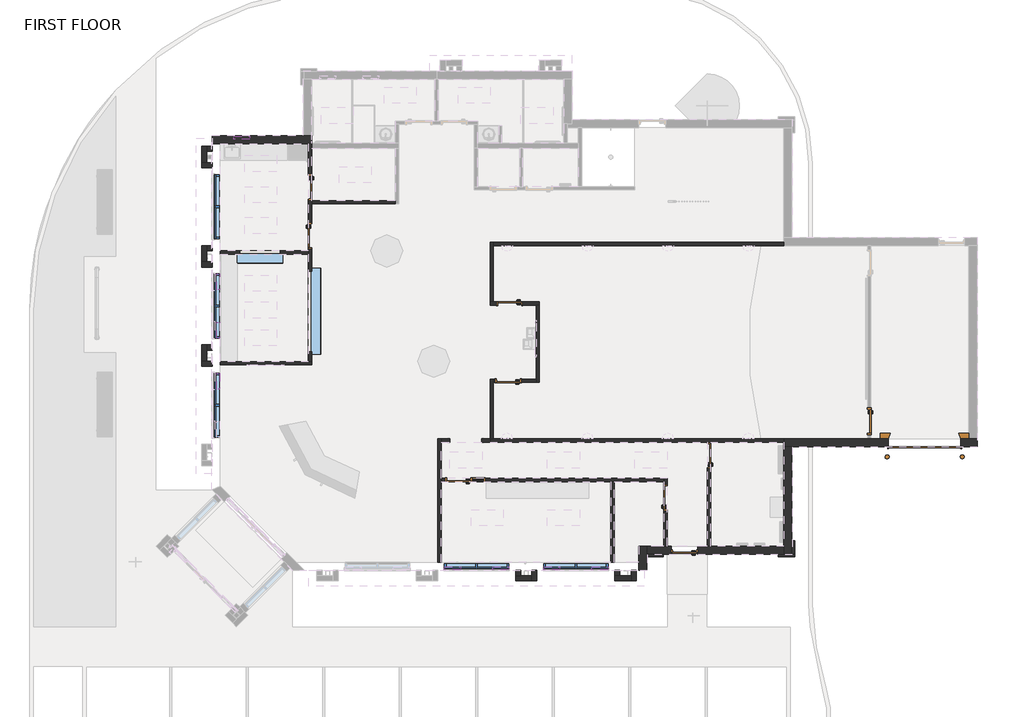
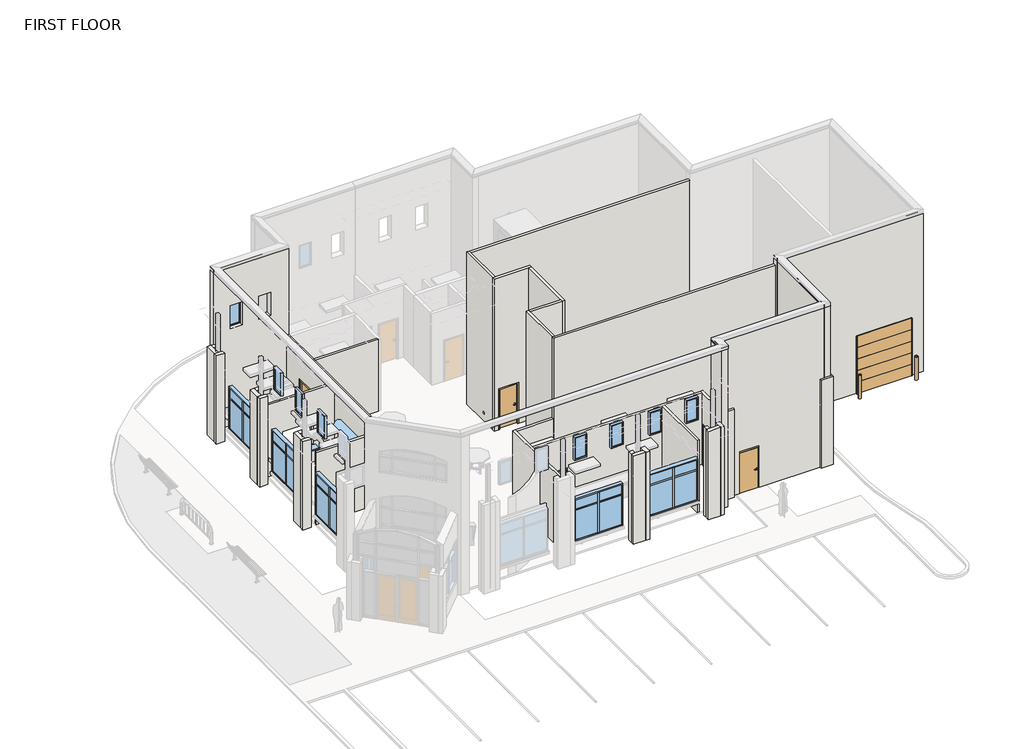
# One storey, part 3 of 7: 40 walls, 15 windows, 10 doors.
"""IFC4 building model written with IfcOpenShell, lengths in millimetres."""

from ifc_helpers import new_model, si_unit, frame, origin, place, context, project, spatial, polyline, outline, extrude, faceted_brep, transform, mapped, element, save
from components import hm_frame_door_interior_single_4ead148d, hm_frame_door_interior_single_41877bdb, hm_frame_door_interior_single_with_sidelite_831faa12, door_ae087dad, sectional_overhead_dock_door_and_seal_3876_cbcbc84f, aluminum_exterior_window_single_3885_e2dbf674, pass_through_counter_4719_pass_through_counter_4719_2_ca190591, pass_through_counter_4719_pass_through_counter_short_b2f492ed, storefront_window_28fc684a

model = new_model("IFC4")

# Units and contexts
model_context = context("Model", 3, world=origin())
ifc_project = project(units=[si_unit("LENGTHUNIT", "METRE", prefix="MILLI")], contexts=[model_context])

# Site, building, storey
site = spatial("IfcSite", under=ifc_project)
building = spatial("IfcBuilding", under=site)
storey = spatial("IfcBuildingStorey", under=building, Name="FIRST FLOOR", Elevation=30480.0)

# Doors
placement = place(None, origin())
hm_frame_door_interior_single_shape = hm_frame_door_interior_single_4ead148d(model_context)
element("IfcDoor", 1, ObjectType="HM Frame Door - Interior Single : 36\" x 84\" x 5.75\" WD Door", at=placement, inside=storey, context=model_context, shape_type="MappedRepresentation", body=[
    mapped(hm_frame_door_interior_single_shape, transform((-13127.147753, 6404.1010405, 30480.0), x_axis=(0.0, -1.0, 0.0), y_axis=(1.0, 0.0, 0.0), z_axis=(0.0, 0.0, 1.0))),
])
element("IfcDoor", 2, ObjectType="HM Frame Door - Interior Single : 36\" x 84\" x 5.75\" WD Door", at=placement, inside=storey, context=model_context, shape_type="MappedRepresentation", body=[
    mapped(hm_frame_door_interior_single_shape, transform((-5569.060253, 3840.2885405, 30480.0), x_axis=(-1.0, 0.0, 0.0), y_axis=(0.0, -1.0, 0.0), z_axis=(0.0, 0.0, 1.0))),
])
element("IfcDoor", 3, ObjectType="HM Frame Door - Interior Single : 36\" x 84\" x 5.75\" WD Door", at=placement, inside=storey, context=model_context, shape_type="MappedRepresentation", body=[
    mapped(hm_frame_door_interior_single_shape, transform((1982.677247, -1911.2239595, 30480.0), x_axis=(0.0, 1.0, 0.0), y_axis=(-1.0, 0.0, 0.0), z_axis=(0.0, 0.0, 1.0))),
])
hm_frame_door_interior_single_2_shape = hm_frame_door_interior_single_41877bdb(model_context)
element("IfcDoor", 4, ObjectType="HM Frame Door - Interior Single : 36\" x 84\" x 5.75\" WD Door", at=placement, inside=storey, context=model_context, shape_type="MappedRepresentation", body=[
    mapped(hm_frame_door_interior_single_2_shape, transform((334.852247, -3508.2489595, 30480.0), x_axis=(0.0, 1.0, 0.0), y_axis=(-1.0, 0.0, 0.0), z_axis=(0.0, 0.0, 1.0))),
])
element("IfcDoor", 5, ObjectType="HM Frame Door - Interior Single : 36\" x 84\" x 5.75\" WD Door", at=placement, inside=storey, context=model_context, shape_type="MappedRepresentation", body=[
    mapped(hm_frame_door_interior_single_2_shape, transform((-5619.860253, 916.1135405, 30480.0), x_axis=(-1.0, 0.0, 0.0), y_axis=(0.0, -1.0, 0.0), z_axis=(0.0, 0.0, 1.0))),
])
element("IfcDoor", 6, ObjectType="HM Frame Door - Interior Single : 36\" x 84\" x 5.75\" WD Door", at=placement, inside=storey, context=model_context, shape_type="MappedRepresentation", body=[
    mapped(hm_frame_door_interior_single_2_shape, transform((-13127.147753, 8248.7760405, 30480.0), x_axis=(0.0, -1.0, 0.0), y_axis=(1.0, 0.0, 0.0), z_axis=(0.0, 0.0, 1.0))),
])
element("IfcDoor", 7, ObjectType="HM Frame Door - Interior Single : 36\" x 84\" x 5.75\" WD Door", at=placement, inside=storey, context=model_context, shape_type="MappedRepresentation", body=[
    mapped(hm_frame_door_interior_single_2_shape, transform((8049.7427189, -618.9989595, 30480.0), x_axis=(0.0, -1.0, 0.0), y_axis=(1.0, 0.0, 0.0), z_axis=(0.0, 0.0, 1.0))),
])
hm_frame_door_interior_single_with_sidelite_shape = hm_frame_door_interior_single_with_sidelite_831faa12(model_context)
element("IfcDoor", 8, ObjectType="HM Frame Door - Interior Single with Sidelite : 36\" x 84\" x 5.75\" x 18\" Lite_Wood", at=placement, inside=storey, context=model_context, shape_type="MappedRepresentation", body=[
    mapped(hm_frame_door_interior_single_with_sidelite_shape, transform((-7499.460253, -2836.7364595, 30480.0), x_axis=(-1.0, 0.0, 0.0), y_axis=(0.0, -1.0, 0.0), z_axis=(0.0, 0.0, 1.0))),
])
door_shape = door_ae087dad(model_context)
element("IfcDoor", 9, ObjectType="HM_Frame_Door_-_Exterior_Single_3894 : 3'-0\" x 7'-0\" Metal_5.75\" x 4\"", at=placement, inside=storey, context=model_context, shape_type="MappedRepresentation", body=[
    mapped(door_shape, transform((1057.164747, -5495.7989595, 30480.0), x_axis=(1.0, 0.0, 0.0), y_axis=(0.0, 1.0, 0.0), z_axis=(0.0, 0.0, 1.0))),
])
sectional_overhead_dock_door_and_seal_3876_shape = sectional_overhead_dock_door_and_seal_3876_cbcbc84f(model_context)
element("IfcDoor", 10, ObjectType="Sectional_Overhead_Dock_Door_and_Seal_3876 : 9'-0\"W x 10'-0\"H", at=placement, inside=storey, context=model_context, shape_type="MappedRepresentation", body=[
    mapped(sectional_overhead_dock_door_and_seal_3876_shape, transform((10150.364747, -1431.7989595, 30480.0), x_axis=(1.0, 0.0, 0.0), y_axis=(0.0, 1.0, 0.0), z_axis=(0.0, 0.0, 1.0))),
])

# Walls
element("IfcWall", 11, ObjectType="Exterior - Brick on Mtl. Stud", at=placement, inside=storey, context=model_context, shape_type="Brep", body=[
    faceted_brep([(-16824.435253, 9896.6010405, 30480.0), (-16519.635253, 9896.6010405, 30480.0), (-13189.060253, 9896.6010405, 30480.0), (-13065.235253, 9896.6010405, 30480.0), (-13065.235253, 9896.6010405, 34290.0), (-13065.235253, 9896.6010405, 34594.8), (-13065.235253, 9896.6010405, 38557.2), (-13065.235253, 9896.6010405, 38890.816921), (-16519.635253, 9896.6010405, 38890.816921), (-16522.810253, 9896.6010405, 38899.5401618), (-16522.810253, 9896.6010405, 39014.4), (-16824.435253, 9896.6010405, 39014.4), (-13979.635253, 9896.6010405, 36830.0), (-13979.635253, 9896.6010405, 35610.8), (-14589.235253, 9896.6010405, 35610.8), (-14589.235253, 9896.6010405, 36830.0), (-15402.035253, 9896.6010405, 36830.0), (-15402.035253, 9896.6010405, 35610.8), (-16011.635253, 9896.6010405, 35610.8), (-16011.635253, 9896.6010405, 36830.0), (-13065.235253, 10201.4010405, 30480.0), (-13370.035253, 10201.4010405, 30480.0), (-16824.435253, 10201.4010405, 30480.0), (-16824.435253, 10201.4010405, 39014.4), (-13370.035253, 10201.4010405, 39014.4), (-13068.410253, 10201.4010405, 39014.4), (-13068.410253, 10201.4010405, 38899.5401618), (-13065.235253, 10201.4010405, 38890.816921), (-13979.635253, 10201.4010405, 35610.8), (-13979.635253, 10201.4010405, 36830.0), (-14589.235253, 10201.4010405, 36830.0), (-14589.235253, 10201.4010405, 35610.8), (-15402.035253, 10201.4010405, 35610.8), (-15402.035253, 10201.4010405, 36830.0), (-16011.635253, 10201.4010405, 36830.0), (-16011.635253, 10201.4010405, 35610.8), (-13065.235253, 9912.4760405, 30480.0), (-16522.810253, 9899.7760405, 39014.4), (-13068.410253, 9899.7760405, 39014.4), (-16522.810253, 9899.7760405, 38899.5401618), (-13068.410253, 9899.7760405, 38899.5401618)], [[[0, 1, 2, 3, 4, 5, 6, 7, 8, 9, 10, 11], [12, 13, 14, 15], [16, 17, 18, 19]], [[20, 21, 22, 23, 24, 25, 26, 27], [28, 29, 30, 31], [32, 33, 34, 35]], [[3, 2, 1, 0, 22, 21, 20, 36]], [[23, 11, 10, 37, 38, 25, 24]], [[0, 11, 23, 22]], [[3, 36, 20, 27, 7, 6, 5, 4]], [[13, 12, 29, 28]], [[14, 13, 28, 31]], [[15, 14, 31, 30]], [[12, 15, 30, 29]], [[17, 16, 33, 32]], [[18, 17, 32, 35]], [[19, 18, 35, 34]], [[16, 19, 34, 33]], [[39, 37, 10, 9]], [[8, 39, 9]], [[39, 40, 38, 37]], [[40, 39, 8, 7]], [[38, 40, 26, 25]], [[40, 7, 27, 26]]]),
])
element("IfcWall", 12, ObjectType="Exterior - Brick on Mtl. Stud", at=placement, inside=storey, context=model_context, shape_type="Brep", body=[
    faceted_brep([(12131.564747, -1279.3989595, 39014.4), (12131.564747, -1279.3989595, 30480.0), (11826.764747, -1279.3989595, 30480.0), (11521.964747, -1279.3989595, 30480.0), (11521.964747, -1279.3989595, 33528.0), (8778.764747, -1279.3989595, 33528.0), (8778.764747, -1279.3989595, 30480.0), (8111.6552189, -1279.3989595, 30480.0), (7987.8302189, -1279.3989595, 30480.0), (4816.364747, -1279.3989595, 30480.0), (4816.364747, -1279.3989595, 38557.2), (4816.364747, -1279.3989595, 38890.816921), (11826.764747, -1279.3989595, 38890.816921), (11829.939747, -1279.3989595, 38899.5401618), (11829.939747, -1279.3989595, 39014.4), (12131.564747, -1584.1989595, 30480.0), (12131.564747, -1584.1989595, 39014.4), (5121.164747, -1584.1989595, 39014.4), (4819.539747, -1584.1989595, 39014.4), (4819.539747, -1584.1989595, 38899.5401618), (4816.364747, -1584.1989595, 38890.816921), (4816.364747, -1584.1989595, 30480.0), (5121.164747, -1584.1989595, 30480.0), (8778.764747, -1584.1989595, 30480.0), (8778.764747, -1584.1989595, 33528.0), (11521.964747, -1584.1989595, 33528.0), (11521.964747, -1584.1989595, 30480.0), (4816.364747, -1403.2239595, 30480.0), (11829.939747, -1282.5739595, 39014.4), (4819.539747, -1282.5739595, 39014.4), (11829.939747, -1282.5739595, 38899.5401618), (4819.539747, -1282.5739595, 38899.5401618)], [[[0, 1, 2, 3, 4, 5, 6, 7, 8, 9, 10, 11, 12, 13, 14]], [[15, 16, 17, 18, 19, 20, 21, 22, 23, 24, 25, 26]], [[1, 15, 26, 3, 2]], [[21, 27, 9, 8, 7, 6, 23, 22]], [[16, 0, 14, 28, 29, 18, 17]], [[1, 0, 16, 15]], [[9, 27, 21, 20, 11, 10]], [[25, 4, 3, 26]], [[4, 25, 24, 5]], [[5, 24, 23, 6]], [[30, 28, 14, 13]], [[12, 30, 13]], [[30, 31, 29, 28]], [[31, 30, 12, 11]], [[29, 31, 19, 18]], [[31, 11, 20, 19]]]),
])
element("IfcWall", 13, ObjectType="Exterior - Brick on Mtl. Stud", at=placement, inside=storey, context=model_context, shape_type="Brep", body=[
    faceted_brep([(4816.364747, -1584.1989595, 30480.0), (4816.364747, -5343.3989595, 30480.0), (4816.364747, -5648.1989595, 30480.0), (4816.364747, -5648.1989595, 39014.4), (4816.364747, -5346.5739595, 39014.4), (4816.364747, -5346.5739595, 38899.5401618), (4816.364747, -5343.3989595, 38890.816921), (4816.364747, -1584.1989595, 38890.816921), (5121.164747, -5648.1989595, 30480.0), (5121.164747, -1584.1989595, 30480.0), (5121.164747, -1584.1989595, 39014.4), (5121.164747, -5648.1989595, 39014.4), (4819.539747, -1584.1989595, 39014.4), (4819.539747, -5346.5739595, 39014.4), (4819.539747, -1584.1989595, 38899.5401618), (4819.539747, -5346.5739595, 38899.5401618)], [[[0, 1, 2, 3, 4, 5, 6, 7]], [[8, 9, 10, 11]], [[2, 1, 0, 9, 8]], [[11, 10, 12, 13, 4, 3]], [[3, 2, 8, 11]], [[9, 0, 7, 14, 12, 10]], [[15, 13, 12, 14]], [[6, 15, 14, 7]], [[13, 15, 5, 4]], [[15, 6, 5]]]),
])
element("IfcWall", 14, ObjectType="Exterior - Brick on Mtl. Stud", at=placement, inside=storey, context=model_context, shape_type="Brep", body=[
    faceted_brep([(549.164747, -5343.3989595, 30480.0), (396.764747, -5343.3989595, 30480.0), (272.939747, -5343.3989595, 30480.0), (-365.235253, -5343.3989595, 30480.0), (-365.235253, -5343.3989595, 38890.816921), (4816.364747, -5343.3989595, 38890.816921), (4816.364747, -5343.3989595, 30480.0), (2044.589747, -5343.3989595, 30480.0), (1920.764747, -5343.3989595, 30480.0), (1565.164747, -5343.3989595, 30480.0), (1565.164747, -5343.3989595, 32715.2), (549.164747, -5343.3989595, 32715.2), (4816.364747, -5648.1989595, 39014.4), (-365.235253, -5648.1989595, 39014.4), (-365.235253, -5648.1989595, 30480.0), (549.164747, -5648.1989595, 30480.0), (549.164747, -5648.1989595, 32715.2), (1565.164747, -5648.1989595, 32715.2), (1565.164747, -5648.1989595, 30480.0), (4816.364747, -5648.1989595, 30480.0), (4816.364747, -5346.5739595, 39014.4), (-365.235253, -5346.5739595, 39014.4), (4816.364747, -5346.5739595, 38899.5401618), (-365.235253, -5346.5739595, 38899.5401618)], [[[0, 1, 2, 3, 4, 5, 6, 7, 8, 9, 10, 11]], [[12, 13, 14, 15, 16, 17, 18, 19]], [[6, 19, 18, 9, 8, 7]], [[14, 3, 2, 1, 0, 15]], [[13, 12, 20, 21]], [[12, 19, 6, 5, 22, 20]], [[3, 14, 13, 21, 23, 4]], [[16, 11, 10, 17]], [[11, 16, 15, 0]], [[17, 10, 9, 18]], [[22, 23, 21, 20]], [[23, 22, 5, 4]]]),
])
element("IfcWall", 15, ObjectType="Exterior - Brick on Mtl. Stud", at=placement, inside=storey, context=model_context, shape_type="Brep", body=[
    faceted_brep([(-670.035253, -5343.3989595, 30480.0), (-670.035253, -5952.9989595, 30480.0), (-670.035253, -6257.7989595, 30480.0), (-670.035253, -6257.7989595, 39014.4), (-670.035253, -5956.1739595, 39014.4), (-670.035253, -5956.1739595, 38899.5401618), (-670.035253, -5952.9989595, 38890.816921), (-670.035253, -5343.3989595, 38890.816921), (-670.035253, -5343.3989595, 38557.2), (-670.035253, -5343.3989595, 34594.8), (-365.235253, -6257.7989595, 30480.0), (-365.235253, -5648.1989595, 30480.0), (-365.235253, -5343.3989595, 30480.0), (-365.235253, -5343.3989595, 38890.816921), (-365.235253, -5346.5739595, 38899.5401618), (-365.235253, -5346.5739595, 39014.4), (-365.235253, -5648.1989595, 39014.4), (-365.235253, -6257.7989595, 39014.4), (-666.860253, -5346.5739595, 39014.4), (-666.860253, -5956.1739595, 39014.4), (-666.860253, -5346.5739595, 38899.5401618), (-666.860253, -5956.1739595, 38899.5401618)], [[[0, 1, 2, 3, 4, 5, 6, 7, 8, 9]], [[10, 11, 12, 13, 14, 15, 16, 17]], [[2, 1, 0, 12, 11, 10]], [[3, 17, 16, 15, 18, 19, 4]], [[12, 0, 9, 8, 7, 13]], [[3, 2, 10, 17]], [[20, 18, 15, 14]], [[7, 20, 14, 13]], [[20, 21, 19, 18]], [[21, 20, 7, 6]], [[19, 21, 5, 4]], [[21, 6, 5]]]),
])
element("IfcWall", 16, ObjectType="Generic - 4\" CMU", at=placement, inside=storey, context=model_context, shape_type="SweptSolid", body=[
    extrude(outline(polyline([(244.364747, -5749.7989595), (-365.235253, -5749.7989595), (-365.235253, -5648.1989595), (244.364747, -5648.1989595), (244.364747, -5749.7989595)])), frame((0.0, 0.0, 30480.0), z_axis=(0.0, 0.0, 1.0), x_axis=(1.0, 0.0, 0.0)), (0.0, 0.0, 1.0), 4673.6),
])
element("IfcWall", 17, ObjectType="Generic - 4\" CMU", at=placement, inside=storey, context=model_context, shape_type="Brep", body=[
    faceted_brep([(4613.164747, -5749.7989595, 30480.0), (5222.764747, -5749.7989595, 30480.0), (5222.764747, -5749.7989595, 35153.6), (4613.164747, -5749.7989595, 35153.6), (4613.164747, -5648.1989595, 30480.0), (4613.164747, -5648.1989595, 35153.6), (5121.164747, -5648.1989595, 35153.6), (5222.764747, -5648.1989595, 35153.6), (5222.764747, -5648.1989595, 30480.0), (5121.164747, -5648.1989595, 30480.0)], [[[0, 1, 2, 3]], [[4, 5, 6, 7, 8, 9]], [[1, 0, 4, 9, 8]], [[3, 2, 7, 6, 5]], [[0, 3, 5, 4]], [[2, 1, 8, 7]]]),
])
element("IfcWall", 18, ObjectType="Generic - 4\" CMU", at=placement, inside=storey, context=model_context, shape_type="SweptSolid", body=[
    extrude(outline(polyline([(5121.164747, -5648.1989595), (5121.164747, -5140.1989595), (5222.764747, -5140.1989595), (5222.764747, -5648.1989595), (5121.164747, -5648.1989595)])), frame((0.0, 0.0, 30480.0), z_axis=(0.0, 0.0, 1.0), x_axis=(1.0, 0.0, 0.0)), (0.0, 0.0, 1.0), 4673.6),
])
element("IfcWall", 19, ObjectType="Generic - 8\" Masonry", at=placement, inside=storey, context=model_context, shape_type="Brep", body=[
    faceted_brep([(-4724.530573, -6257.7989595, 30480.0), (-4724.530573, -6470.5239595, 30480.0), (-4724.530573, -6664.1989595, 30480.0), (-4724.530573, -6664.1989595, 35153.6), (-4724.530573, -6470.5239595, 35153.6), (-4724.530573, -6257.7989595, 35153.6), (-4530.855573, -6257.7989595, 30480.0), (-4530.855573, -6257.7989595, 35153.6), (-4530.855573, -6664.1989595, 35153.6), (-4530.855573, -6664.1989595, 30480.0)], [[[0, 1, 2, 3, 4, 5]], [[6, 7, 8, 9]], [[2, 1, 0, 6, 9]], [[5, 4, 3, 8, 7]], [[0, 5, 7, 6]], [[3, 2, 9, 8]]]),
])
element("IfcWall", 20, ObjectType="Generic - 8\" Masonry", at=placement, inside=storey, context=model_context, shape_type="Brep", body=[
    faceted_brep([(-4724.530573, -6470.5239595, 30480.0), (-5149.980573, -6470.5239595, 30480.0), (-5343.655573, -6470.5239595, 30480.0), (-5343.655573, -6470.5239595, 35153.6), (-5149.980573, -6470.5239595, 35153.6), (-4724.530573, -6470.5239595, 35153.6), (-4724.530573, -6664.1989595, 30480.0), (-4724.530573, -6664.1989595, 35153.6), (-5343.655573, -6664.1989595, 35153.6), (-5343.655573, -6664.1989595, 30480.0)], [[[0, 1, 2, 3, 4, 5]], [[6, 7, 8, 9]], [[2, 1, 0, 6, 9]], [[5, 4, 3, 8, 7]], [[3, 2, 9, 8]], [[0, 5, 7, 6]]]),
])
element("IfcWall", 21, ObjectType="Generic - 8\" Masonry", at=placement, inside=storey, context=model_context, shape_type="SweptSolid", body=[
    extrude(outline(polyline([(-5149.980573, -6257.7989595), (-5149.980573, -6470.5239595), (-5343.655573, -6470.5239595), (-5343.655573, -6257.7989595), (-5149.980573, -6257.7989595)])), frame((0.0, 0.0, 30480.0), z_axis=(0.0, 0.0, 1.0), x_axis=(1.0, 0.0, 0.0)), (0.0, 0.0, 1.0), 4673.6),
])
element("IfcWall", 22, ObjectType="Generic - 8\" Masonry", at=placement, inside=storey, context=model_context, shape_type="Brep", body=[
    faceted_brep([(-965.340733, -6257.7989595, 30480.0), (-965.340733, -6470.5239595, 30480.0), (-965.340733, -6664.1989595, 30480.0), (-965.340733, -6664.1989595, 35153.6), (-965.340733, -6470.5239595, 35153.6), (-965.340733, -6257.7989595, 35153.6), (-771.665733, -6257.7989595, 30480.0), (-771.665733, -6257.7989595, 35153.6), (-771.665733, -6664.1989595, 35153.6), (-771.665733, -6664.1989595, 30480.0)], [[[0, 1, 2, 3, 4, 5]], [[6, 7, 8, 9]], [[2, 1, 0, 6, 9]], [[5, 4, 3, 8, 7]], [[0, 5, 7, 6]], [[3, 2, 9, 8]]]),
])
element("IfcWall", 23, ObjectType="Generic - 8\" Masonry", at=placement, inside=storey, context=model_context, shape_type="Brep", body=[
    faceted_brep([(-965.340733, -6470.5239595, 30480.0), (-1390.790733, -6470.5239595, 30480.0), (-1584.465733, -6470.5239595, 30480.0), (-1584.465733, -6470.5239595, 35153.6), (-1390.790733, -6470.5239595, 35153.6), (-965.340733, -6470.5239595, 35153.6), (-965.340733, -6664.1989595, 30480.0), (-965.340733, -6664.1989595, 35153.6), (-1584.465733, -6664.1989595, 35153.6), (-1584.465733, -6664.1989595, 30480.0)], [[[0, 1, 2, 3, 4, 5]], [[6, 7, 8, 9]], [[2, 1, 0, 6, 9]], [[5, 4, 3, 8, 7]], [[3, 2, 9, 8]], [[0, 5, 7, 6]]]),
])
element("IfcWall", 24, ObjectType="Generic - 8\" Masonry", at=placement, inside=storey, context=model_context, shape_type="SweptSolid", body=[
    extrude(outline(polyline([(-1390.790733, -6257.7989595), (-1390.790733, -6470.5239595), (-1584.465733, -6470.5239595), (-1584.465733, -6257.7989595), (-1390.790733, -6257.7989595)])), frame((0.0, 0.0, 30480.0), z_axis=(0.0, 0.0, 1.0), x_axis=(1.0, 0.0, 0.0)), (0.0, 0.0, 1.0), 4673.6),
])
element("IfcWall", 25, ObjectType="Generic - 8\" Masonry", at=placement, inside=storey, context=model_context, shape_type="Brep", body=[
    faceted_brep([(-16824.435253, 9175.8455605, 30480.0), (-17037.160253, 9175.8455605, 30480.0), (-17230.835253, 9175.8455605, 30480.0), (-17230.835253, 9175.8455605, 35153.6), (-17037.160253, 9175.8455605, 35153.6), (-16824.435253, 9175.8455605, 35153.6), (-16824.435253, 8982.1705605, 30480.0), (-16824.435253, 8982.1705605, 35153.6), (-17230.835253, 8982.1705605, 35153.6), (-17230.835253, 8982.1705605, 30480.0)], [[[0, 1, 2, 3, 4, 5]], [[6, 7, 8, 9]], [[2, 1, 0, 6, 9]], [[5, 4, 3, 8, 7]], [[0, 5, 7, 6]], [[3, 2, 9, 8]]]),
])
element("IfcWall", 26, ObjectType="Generic - 8\" Masonry", at=placement, inside=storey, context=model_context, shape_type="Brep", body=[
    faceted_brep([(-17037.160253, 9175.8455605, 30480.0), (-17037.160253, 9601.2955605, 30480.0), (-17037.160253, 9794.9705605, 30480.0), (-17037.160253, 9794.9705605, 35153.6), (-17037.160253, 9601.2955605, 35153.6), (-17037.160253, 9175.8455605, 35153.6), (-17230.835253, 9175.8455605, 30480.0), (-17230.835253, 9175.8455605, 35153.6), (-17230.835253, 9794.9705605, 35153.6), (-17230.835253, 9794.9705605, 30480.0)], [[[0, 1, 2, 3, 4, 5]], [[6, 7, 8, 9]], [[2, 1, 0, 6, 9]], [[5, 4, 3, 8, 7]], [[3, 2, 9, 8]], [[0, 5, 7, 6]]]),
])
element("IfcWall", 27, ObjectType="Generic - 8\" Masonry", at=placement, inside=storey, context=model_context, shape_type="SweptSolid", body=[
    extrude(outline(polyline([(-16824.435253, 9601.2955605), (-17037.160253, 9601.2955605), (-17037.160253, 9794.9705605), (-16824.435253, 9794.9705605), (-16824.435253, 9601.2955605)])), frame((0.0, 0.0, 30480.0), z_axis=(0.0, 0.0, 1.0), x_axis=(1.0, 0.0, 0.0)), (0.0, 0.0, 1.0), 4673.6),
])
element("IfcWall", 28, ObjectType="Generic - 8\" Masonry", at=placement, inside=storey, context=model_context, shape_type="Brep", body=[
    faceted_brep([(-16824.435253, 5416.6557205, 30480.0), (-17037.160253, 5416.6557205, 30480.0), (-17230.835253, 5416.6557205, 30480.0), (-17230.835253, 5416.6557205, 35153.6), (-17037.160253, 5416.6557205, 35153.6), (-16824.435253, 5416.6557205, 35153.6), (-16824.435253, 5222.9807205, 30480.0), (-16824.435253, 5222.9807205, 35153.6), (-17230.835253, 5222.9807205, 35153.6), (-17230.835253, 5222.9807205, 30480.0)], [[[0, 1, 2, 3, 4, 5]], [[6, 7, 8, 9]], [[2, 1, 0, 6, 9]], [[5, 4, 3, 8, 7]], [[0, 5, 7, 6]], [[3, 2, 9, 8]]]),
])
element("IfcWall", 29, ObjectType="Generic - 8\" Masonry", at=placement, inside=storey, context=model_context, shape_type="Brep", body=[
    faceted_brep([(-17037.160253, 5416.6557205, 30480.0), (-17037.160253, 5842.1057205, 30480.0), (-17037.160253, 6035.7807205, 30480.0), (-17037.160253, 6035.7807205, 35153.6), (-17037.160253, 5842.1057205, 35153.6), (-17037.160253, 5416.6557205, 35153.6), (-17230.835253, 5416.6557205, 30480.0), (-17230.835253, 5416.6557205, 35153.6), (-17230.835253, 6035.7807205, 35153.6), (-17230.835253, 6035.7807205, 30480.0)], [[[0, 1, 2, 3, 4, 5]], [[6, 7, 8, 9]], [[2, 1, 0, 6, 9]], [[5, 4, 3, 8, 7]], [[3, 2, 9, 8]], [[0, 5, 7, 6]]]),
])
element("IfcWall", 30, ObjectType="Generic - 8\" Masonry", at=placement, inside=storey, context=model_context, shape_type="SweptSolid", body=[
    extrude(outline(polyline([(-16824.435253, 5842.1057205), (-17037.160253, 5842.1057205), (-17037.160253, 6035.7807205), (-16824.435253, 6035.7807205), (-16824.435253, 5842.1057205)])), frame((0.0, 0.0, 30480.0), z_axis=(0.0, 0.0, 1.0), x_axis=(1.0, 0.0, 0.0)), (0.0, 0.0, 1.0), 4673.6),
])
element("IfcWall", 31, ObjectType="Generic - 8\" Masonry", at=placement, inside=storey, context=model_context, shape_type="Brep", body=[
    faceted_brep([(-16824.435253, 1657.4658805, 30480.0), (-17037.160253, 1657.4658805, 30480.0), (-17230.835253, 1657.4658805, 30480.0), (-17230.835253, 1657.4658805, 35153.6), (-17037.160253, 1657.4658805, 35153.6), (-16824.435253, 1657.4658805, 35153.6), (-16824.435253, 1463.7908805, 30480.0), (-16824.435253, 1463.7908805, 35153.6), (-17230.835253, 1463.7908805, 35153.6), (-17230.835253, 1463.7908805, 30480.0)], [[[0, 1, 2, 3, 4, 5]], [[6, 7, 8, 9]], [[2, 1, 0, 6, 9]], [[5, 4, 3, 8, 7]], [[0, 5, 7, 6]], [[3, 2, 9, 8]]]),
])
element("IfcWall", 32, ObjectType="Generic - 8\" Masonry", at=placement, inside=storey, context=model_context, shape_type="Brep", body=[
    faceted_brep([(-17037.160253, 1657.4658805, 30480.0), (-17037.160253, 2082.9158805, 30480.0), (-17037.160253, 2276.5908805, 30480.0), (-17037.160253, 2276.5908805, 35153.6), (-17037.160253, 2082.9158805, 35153.6), (-17037.160253, 1657.4658805, 35153.6), (-17230.835253, 1657.4658805, 30480.0), (-17230.835253, 1657.4658805, 35153.6), (-17230.835253, 2276.5908805, 35153.6), (-17230.835253, 2276.5908805, 30480.0)], [[[0, 1, 2, 3, 4, 5]], [[6, 7, 8, 9]], [[2, 1, 0, 6, 9]], [[5, 4, 3, 8, 7]], [[3, 2, 9, 8]], [[0, 5, 7, 6]]]),
])
element("IfcWall", 33, ObjectType="Generic - 8\" Masonry", at=placement, inside=storey, context=model_context, shape_type="SweptSolid", body=[
    extrude(outline(polyline([(-16824.435253, 2082.9158805), (-17037.160253, 2082.9158805), (-17037.160253, 2276.5908805), (-16824.435253, 2276.5908805), (-16824.435253, 2082.9158805)])), frame((0.0, 0.0, 30480.0), z_axis=(0.0, 0.0, 1.0), x_axis=(1.0, 0.0, 0.0)), (0.0, 0.0, 1.0), 4673.6),
])
element("IfcWall", 34, ObjectType="Interior - 4 7/8\" Partition (1-hr)", at=placement, inside=storey, context=model_context, shape_type="SweptSolid", body=[
    extrude(outline(polyline([(4816.364747, 6035.8010405), (-6178.660253, 6035.8010405), (-6178.660253, 6159.6260405), (4816.364747, 6159.6260405), (4816.364747, 6035.8010405)])), frame((0.0, 0.0, 30480.0), z_axis=(0.0, 0.0, 1.0), x_axis=(1.0, 0.0, 0.0)), (0.0, 0.0, 1.0), 8077.2),
])
element("IfcWall", 35, ObjectType="Interior - 4 7/8\" Partition (1-hr)", at=placement, inside=storey, context=model_context, shape_type="Brep", body=[
    faceted_brep([(396.764747, -3000.2489595, 32664.4), (396.764747, -3000.2489595, 30480.0), (396.764747, -2774.8239595, 30480.0), (396.764747, -2774.8239595, 34290.0), (396.764747, -5343.3989595, 34290.0), (396.764747, -5343.3989595, 30480.0), (396.764747, -4016.2489595, 30480.0), (396.764747, -4016.2489595, 32664.4), (272.939747, -2774.8239595, 30480.0), (272.939747, -2898.6489595, 30480.0), (272.939747, -3000.2489595, 30480.0), (272.939747, -3000.2489595, 32664.4), (272.939747, -4016.2489595, 32664.4), (272.939747, -4016.2489595, 30480.0), (272.939747, -5343.3989595, 30480.0), (272.939747, -5343.3989595, 34290.0), (272.939747, -2898.6489595, 34290.0), (272.939747, -2774.8239595, 34290.0)], [[[0, 1, 2, 3, 4, 5, 6, 7]], [[8, 9, 10, 11, 12, 13, 14, 15, 16, 17]], [[2, 1, 10, 9, 8]], [[6, 5, 14, 13]], [[4, 3, 17, 16, 15]], [[5, 4, 15, 14]], [[3, 2, 8, 17]], [[12, 11, 0, 7]], [[13, 12, 7, 6]], [[11, 10, 1, 0]]]),
])
element("IfcWall", 36, ObjectType="Interior - 4 7/8\" Partition (1-hr)", at=placement, inside=storey, context=model_context, shape_type="Brep", body=[
    faceted_brep([(-8159.860253, -5952.9989595, 30480.0), (-8159.860253, -2898.6489595, 30480.0), (-8159.860253, -2774.8239595, 30480.0), (-8159.860253, -1403.2239595, 30480.0), (-8159.860253, -1279.3989595, 30480.0), (-8159.860253, -1279.3989595, 34290.0), (-8159.860253, -1403.2239595, 34290.0), (-8159.860253, -2774.8239595, 34290.0), (-8159.860253, -2898.6489595, 34290.0), (-8159.860253, -5952.9989595, 34290.0), (-8283.685253, -5952.9989595, 30480.0), (-8283.685253, -5952.9989595, 34290.0), (-8283.685253, -1279.3989595, 34290.0), (-8283.685253, -1279.3989595, 30480.0), (-8283.685253, -3333.5095722, 30480.0), (-8283.685253, -3649.6767519, 30480.0)], [[[0, 1, 2, 3, 4, 5, 6, 7, 8, 9]], [[10, 11, 12, 13, 14, 15]], [[4, 3, 2, 1, 0, 10, 15, 14, 13]], [[9, 8, 7, 6, 5, 12, 11]], [[5, 4, 13, 12]], [[0, 9, 11, 10]]]),
])
element("IfcWall", 37, ObjectType="Interior - 4 7/8\" Partition (1-hr)", at=placement, inside=storey, context=model_context, shape_type="SweptSolid", body=[
    extrude(outline(polyline([(-5343.3989595, 34290.0), (-1403.2239595, 34290.0), (-1403.2239595, 32664.4), (-2419.2239595, 32664.4), (-2419.2239595, 30480.0), (-5343.3989595, 30480.0), (-5343.3989595, 34290.0)])), frame((1920.764747, 0.0, 0.0), z_axis=(1.0, 0.0, 0.0), x_axis=(0.0, 1.0, 0.0)), (0.0, 0.0, 1.0), 123.825),
])
element("IfcWall", 38, ObjectType="Interior - 4 7/8\" Partition (1-hr)", at=placement, inside=storey, context=model_context, shape_type="SweptSolid", body=[
    extrude(outline(polyline([(30480.0, -16519.635253), (30480.0, -13189.060253), (34290.0, -13189.060253), (34290.0, -16519.635253), (30480.0, -16519.635253)]), holes=[polyline([(32613.6, -14259.035253), (31394.4, -14259.035253), (31394.4, -15783.035253), (32613.6, -15783.035253), (32613.6, -14259.035253)])]), frame((0.0, 5708.7760405, 0.0), z_axis=(0.0, 1.0, 0.0), x_axis=(0.0, 0.0, 1.0)), (0.0, 0.0, 1.0), 123.825),
])
element("IfcWall", 39, ObjectType="Interior - 4 7/8\" Partition (1-hr)", at=placement, inside=storey, context=model_context, shape_type="Brep", body=[
    faceted_brep([(-16519.635253, 1520.9510405, 30480.0), (-13065.235253, 1520.9510405, 30480.0), (-13065.235253, 1520.9510405, 34290.0), (-16519.635253, 1520.9510405, 34290.0), (-16519.635253, 1644.7760405, 30480.0), (-16519.635253, 1644.7760405, 34290.0), (-13189.060253, 1644.7760405, 34290.0), (-13065.235253, 1644.7760405, 34290.0), (-13065.235253, 1644.7760405, 30480.0), (-13189.060253, 1644.7760405, 30480.0)], [[[0, 1, 2, 3]], [[4, 5, 6, 7, 8, 9]], [[1, 0, 4, 9, 8]], [[3, 2, 7, 6, 5]], [[2, 1, 8, 7]], [[0, 3, 5, 4]]]),
])
element("IfcWall", 40, ObjectType="Interior - 4 7/8\" Partition (1-hr)", at=placement, inside=storey, context=model_context, shape_type="Brep", body=[
    faceted_brep([(-13189.060253, 7740.7760405, 32664.4), (-13189.060253, 7740.7760405, 30480.0), (-13189.060253, 6912.1010405, 30480.0), (-13189.060253, 6912.1010405, 32664.4), (-13189.060253, 5896.1010405, 32664.4), (-13189.060253, 5896.1010405, 30480.0), (-13189.060253, 5832.6010405, 30480.0), (-13189.060253, 5708.7760405, 30480.0), (-13189.060253, 1644.7760405, 30480.0), (-13189.060253, 1644.7760405, 34290.0), (-13189.060253, 5708.7760405, 34290.0), (-13189.060253, 5832.6010405, 34290.0), (-13189.060253, 9896.6010405, 34290.0), (-13189.060253, 9896.6010405, 30480.0), (-13189.060253, 8756.7760405, 30480.0), (-13189.060253, 8756.7760405, 32664.4), (-13189.060253, 5073.7760405, 32613.6), (-13189.060253, 2025.7760405, 32613.6), (-13189.060253, 2025.7760405, 31394.4), (-13189.060253, 5073.7760405, 31394.4), (-13065.235253, 6912.1010405, 30480.0), (-13065.235253, 7616.9510405, 30480.0), (-13065.235253, 7740.7760405, 30480.0), (-13065.235253, 7740.7760405, 32664.4), (-13065.235253, 8756.7760405, 32664.4), (-13065.235253, 8756.7760405, 30480.0), (-13065.235253, 9728.3260405, 30480.0), (-13065.235253, 9896.6010405, 30480.0), (-13065.235253, 9896.6010405, 34290.0), (-13065.235253, 9728.3260405, 34290.0), (-13065.235253, 7740.7760405, 34290.0), (-13065.235253, 7616.9510405, 34290.0), (-13065.235253, 1644.7760405, 34290.0), (-13065.235253, 1644.7760405, 30480.0), (-13065.235253, 5896.1010405, 30480.0), (-13065.235253, 5896.1010405, 32664.4), (-13065.235253, 6912.1010405, 32664.4), (-13065.235253, 5073.7760405, 32613.6), (-13065.235253, 5073.7760405, 31394.4), (-13065.235253, 2025.7760405, 31394.4), (-13065.235253, 2025.7760405, 32613.6)], [[[0, 1, 2, 3, 4, 5, 6, 7, 8, 9, 10, 11, 12, 13, 14, 15], [16, 17, 18, 19]], [[20, 21, 22, 23, 24, 25, 26, 27, 28, 29, 30, 31, 32, 33, 34, 35, 36], [37, 38, 39, 40]], [[8, 7, 6, 5, 34, 33]], [[2, 1, 22, 21, 20]], [[14, 13, 27, 26, 25]], [[12, 11, 10, 9, 32, 31, 30, 29, 28]], [[13, 12, 28, 27]], [[9, 8, 33, 32]], [[36, 35, 4, 3]], [[20, 36, 3, 2]], [[35, 34, 5, 4]], [[24, 23, 0, 15]], [[25, 24, 15, 14]], [[23, 22, 1, 0]], [[38, 37, 16, 19]], [[39, 38, 19, 18]], [[40, 39, 18, 17]], [[37, 40, 17, 16]]]),
])
element("IfcWall", 41, ObjectType="Interior - 4 7/8\" Partition (1-hr)", at=placement, inside=storey, context=model_context, shape_type="SweptSolid", body=[
    extrude(outline(polyline([(-1613.035653, -2898.6489595), (-1613.035653, -5952.9989595), (-1736.860653, -5952.9989595), (-1736.860653, -2898.6489595), (-1613.035653, -2898.6489595)])), frame((0.0, 0.0, 30480.0), z_axis=(0.0, 0.0, 1.0), x_axis=(1.0, 0.0, 0.0)), (0.0, 0.0, 1.0), 3810.0),
])
element("IfcWall", 42, ObjectType="Interior - 4 7/8\" Partition (1-hr)", at=placement, inside=storey, context=model_context, shape_type="Brep", body=[
    faceted_brep([(-8159.860253, -2898.6489595, 30480.0), (-8007.460253, -2898.6489595, 30480.0), (-8007.460253, -2898.6489595, 32664.4), (-6483.460253, -2898.6489595, 32664.4), (-6483.460253, -2898.6489595, 30480.0), (-1736.860653, -2898.6489595, 30480.0), (-1613.035653, -2898.6489595, 30480.0), (272.939747, -2898.6489595, 30480.0), (272.939747, -2898.6489595, 34290.0), (-1613.035653, -2898.6489595, 34290.0), (-1736.860653, -2898.6489595, 34290.0), (-8159.860253, -2898.6489595, 34290.0), (-8007.460253, -2774.8239595, 32664.4), (-8007.460253, -2774.8239595, 30480.0), (-8159.860253, -2774.8239595, 30480.0), (-8159.860253, -2774.8239595, 34290.0), (272.939747, -2774.8239595, 34290.0), (272.939747, -2774.8239595, 30480.0), (-6483.460253, -2774.8239595, 30480.0), (-6483.460253, -2774.8239595, 32664.4)], [[[0, 1, 2, 3, 4, 5, 6, 7, 8, 9, 10, 11]], [[12, 13, 14, 15, 16, 17, 18, 19]], [[14, 13, 1, 0]], [[18, 17, 7, 6, 5, 4]], [[11, 10, 9, 8, 16, 15]], [[0, 11, 15, 14]], [[8, 7, 17, 16]], [[3, 2, 12, 19]], [[4, 3, 19, 18]], [[2, 1, 13, 12]]]),
])
element("IfcWall", 43, ObjectType="Interior - 4 7/8\" Partition (1-hr)", at=placement, inside=storey, context=model_context, shape_type="Brep", body=[
    faceted_brep([(-9890.235253, 7740.7760405, 30480.0), (-13065.235253, 7740.7760405, 30480.0), (-13065.235253, 7740.7760405, 32664.4), (-13065.235253, 7740.7760405, 34290.0), (-9890.235253, 7740.7760405, 34290.0), (-9890.235253, 7616.9510405, 30480.0), (-9890.235253, 7616.9510405, 34290.0), (-13065.235253, 7616.9510405, 34290.0), (-13065.235253, 7616.9510405, 30480.0)], [[[0, 1, 2, 3, 4]], [[5, 6, 7, 8]], [[1, 0, 5, 8]], [[4, 3, 7, 6]], [[3, 2, 1, 8, 7]], [[0, 4, 6, 5]]]),
])
element("IfcWall", 44, ObjectType="Interior - 4 7/8\" Partition (1-hr)", at=placement, inside=storey, context=model_context, shape_type="Brep", body=[
    faceted_brep([(-6178.660253, -1279.3989595, 30480.0), (-6178.660253, 854.2010405, 30480.0), (-6178.660253, 978.0260405, 30480.0), (-6178.660253, 978.0260405, 38557.2), (-6178.660253, 854.2010405, 38557.2), (-6178.660253, -1279.3989595, 38557.2), (-6302.485253, -1279.3989595, 30480.0), (-6302.485253, -1279.3989595, 38557.2), (-6302.485253, 978.0260405, 38557.2), (-6302.485253, 978.0260405, 30480.0)], [[[0, 1, 2, 3, 4, 5]], [[6, 7, 8, 9]], [[2, 1, 0, 6, 9]], [[5, 4, 3, 8, 7]], [[3, 2, 9, 8]], [[0, 5, 7, 6]]]),
])
element("IfcWall", 45, ObjectType="Interior - 4 7/8\" Partition (1-hr)", at=placement, inside=storey, context=model_context, shape_type="Brep", body=[
    faceted_brep([(-6302.485253, 3778.3760405, 30480.0), (-6077.060253, 3778.3760405, 30480.0), (-6077.060253, 3778.3760405, 32664.4), (-5061.060253, 3778.3760405, 32664.4), (-5061.060253, 3778.3760405, 30480.0), (-4564.172753, 3778.3760405, 30480.0), (-4440.347753, 3778.3760405, 30480.0), (-4440.347753, 3778.3760405, 38557.2), (-4564.172753, 3778.3760405, 38557.2), (-6302.485253, 3778.3760405, 38557.2), (-6077.060253, 3902.2010405, 32664.4), (-6077.060253, 3902.2010405, 30480.0), (-6178.660253, 3902.2010405, 30480.0), (-6302.485253, 3902.2010405, 30480.0), (-6302.485253, 3902.2010405, 38557.2), (-6178.660253, 3902.2010405, 38557.2), (-4440.347753, 3902.2010405, 38557.2), (-4440.347753, 3902.2010405, 30480.0), (-5061.060253, 3902.2010405, 30480.0), (-5061.060253, 3902.2010405, 32664.4)], [[[0, 1, 2, 3, 4, 5, 6, 7, 8, 9]], [[10, 11, 12, 13, 14, 15, 16, 17, 18, 19]], [[18, 17, 6, 5, 4]], [[13, 12, 11, 1, 0]], [[9, 8, 7, 16, 15, 14]], [[7, 6, 17, 16]], [[0, 9, 14, 13]], [[3, 2, 10, 19]], [[4, 3, 19, 18]], [[2, 1, 11, 10]]]),
])
element("IfcWall", 46, ObjectType="Interior - 4 7/8\" Partition (1-hr)", at=placement, inside=storey, context=model_context, shape_type="Brep", body=[
    faceted_brep([(-4564.172753, 3778.3760405, 30480.0), (-4564.172753, 978.0260405, 30480.0), (-4564.172753, 854.2010405, 30480.0), (-4564.172753, 854.2010405, 38557.2), (-4564.172753, 978.0260405, 38557.2), (-4564.172753, 3778.3760405, 38557.2), (-4440.347753, 3778.3760405, 30480.0), (-4440.347753, 3778.3760405, 38557.2), (-4440.347753, 854.2010405, 38557.2), (-4440.347753, 854.2010405, 30480.0)], [[[0, 1, 2, 3, 4, 5]], [[6, 7, 8, 9]], [[2, 1, 0, 6, 9]], [[5, 4, 3, 8, 7]], [[0, 5, 7, 6]], [[3, 2, 9, 8]]]),
])
element("IfcWall", 47, ObjectType="Interior - 4 7/8\" Partition (1-hr)", at=placement, inside=storey, context=model_context, shape_type="SweptSolid", body=[
    extrude(outline(polyline([(30480.0, -6178.660253), (30480.0, -6127.860253), (32664.4, -6127.860253), (32664.4, -5111.860253), (30480.0, -5111.860253), (30480.0, -4564.172753), (38557.2, -4564.172753), (38557.2, -6178.660253), (30480.0, -6178.660253)])), frame((0.0, 854.2010405, 0.0), z_axis=(0.0, 1.0, 0.0), x_axis=(0.0, 0.0, 1.0)), (0.0, 0.0, 1.0), 123.825),
])
element("IfcWall", 48, ObjectType="Interior - 4 7/8\" Partition (1-hr)", at=placement, inside=storey, context=model_context, shape_type="Brep", body=[
    faceted_brep([(-6178.660253, 3902.2010405, 30480.0), (-6178.660253, 6035.8010405, 30480.0), (-6178.660253, 6159.6260405, 30480.0), (-6178.660253, 6159.6260405, 38557.2), (-6178.660253, 6035.8010405, 38557.2), (-6178.660253, 3902.2010405, 38557.2), (-6302.485253, 3902.2010405, 30480.0), (-6302.485253, 3902.2010405, 38557.2), (-6302.485253, 6159.6260405, 38557.2), (-6302.485253, 6159.6260405, 30480.0)], [[[0, 1, 2, 3, 4, 5]], [[6, 7, 8, 9]], [[2, 1, 0, 6, 9]], [[5, 4, 3, 8, 7]], [[3, 2, 9, 8]], [[0, 5, 7, 6]]]),
])
element("IfcWall", 49, ObjectType="Interior - 4 7/8\" Partition (1-hr)", at=placement, inside=storey, context=model_context, shape_type="SweptSolid", body=[
    extrude(outline(polyline([(30480.0, -6305.660253), (34290.0, -6305.660253), (34290.0, -8159.860253), (30480.0, -8159.860253), (30480.0, -7840.772753), (32613.6, -7840.772753), (32613.6, -6621.572753), (30480.0, -6621.572753), (30480.0, -6305.660253)])), frame((0.0, -1403.2239595, 0.0), z_axis=(0.0, 1.0, 0.0), x_axis=(0.0, 0.0, 1.0)), (0.0, 0.0, 1.0), 123.825),
])
element("IfcWall", 50, ObjectType="Interior - 4 7/8\" Partition (1-hr)", at=placement, inside=storey, context=model_context, shape_type="Brep", body=[
    faceted_brep([(-6305.660253, -1403.2239595, 30480.0), (4816.364747, -1403.2239595, 30480.0), (4816.364747, -1403.2239595, 38557.2), (2501.789747, -1403.2239595, 38557.2), (2377.964747, -1403.2239595, 38557.2), (-6305.660253, -1403.2239595, 38557.2), (-6305.660253, -1403.2239595, 34290.0), (-6305.660253, -1279.3989595, 30480.0), (-6305.660253, -1279.3989595, 34290.0), (-6305.660253, -1279.3989595, 38557.2), (-6302.485253, -1279.3989595, 38557.2), (-6178.660253, -1279.3989595, 38557.2), (4816.364747, -1279.3989595, 38557.2), (4816.364747, -1279.3989595, 30480.0), (-6178.660253, -1279.3989595, 30480.0), (-6302.485253, -1279.3989595, 30480.0)], [[[0, 1, 2, 3, 4, 5, 6]], [[7, 8, 9, 10, 11, 12, 13, 14, 15]], [[1, 0, 7, 15, 14, 13]], [[5, 4, 3, 2, 12, 11, 10, 9]], [[0, 6, 5, 9, 8, 7]], [[2, 1, 13, 12]]]),
])

# Windows
aluminum_exterior_window_single_3885_shape = aluminum_exterior_window_single_3885_e2dbf674(model_context)
element("IfcWindow", 51, ObjectType="Aluminum_Exterior_Window_-_Single_3885 : 24\"W. x 48\"H.", at=placement, inside=storey, context=model_context, shape_type="MappedRepresentation", body=[
    mapped(aluminum_exterior_window_single_3885_shape, transform((-16698.5927777, 1057.3959605, 34594.8), x_axis=(0.0, -1.0, 0.0), y_axis=(1.0, 0.0, 0.0), z_axis=(0.0, 0.0, 1.0))),
])
element("IfcWindow", 52, ObjectType="Aluminum_Exterior_Window_-_Single_3885 : 24\"W. x 48\"H.", at=placement, inside=storey, context=model_context, shape_type="MappedRepresentation", body=[
    mapped(aluminum_exterior_window_single_3885_shape, transform((-16698.5927777, 2987.7858005, 34594.8), x_axis=(0.0, -1.0, 0.0), y_axis=(1.0, 0.0, 0.0), z_axis=(0.0, 0.0, 1.0))),
])
element("IfcWindow", 53, ObjectType="Aluminum_Exterior_Window_-_Single_3885 : 24\"W. x 48\"H.", at=placement, inside=storey, context=model_context, shape_type="MappedRepresentation", body=[
    mapped(aluminum_exterior_window_single_3885_shape, transform((-16698.5927777, 4816.5858005, 34594.8), x_axis=(0.0, -1.0, 0.0), y_axis=(1.0, 0.0, 0.0), z_axis=(0.0, 0.0, 1.0))),
])
element("IfcWindow", 54, ObjectType="Aluminum_Exterior_Window_-_Single_3885 : 24\"W. x 48\"H.", at=placement, inside=storey, context=model_context, shape_type="MappedRepresentation", body=[
    mapped(aluminum_exterior_window_single_3885_shape, transform((-15859.235253, 10022.4435159, 34594.8), x_axis=(1.0, 0.0, 0.0), y_axis=(0.0, 1.0, 0.0), z_axis=(0.0, 0.0, 1.0))),
])
element("IfcWindow", 55, ObjectType="Aluminum_Exterior_Window_-_Single_3885 : 24\"W. x 48\"H.", at=placement, inside=storey, context=model_context, shape_type="MappedRepresentation", body=[
    mapped(aluminum_exterior_window_single_3885_shape, transform((-7578.845413, -6078.8414348, 34594.8), x_axis=(-1.0, 0.0, 0.0), y_axis=(0.0, -1.0, 0.0), z_axis=(0.0, 0.0, 1.0))),
])
element("IfcWindow", 56, ObjectType="Aluminum_Exterior_Window_-_Single_3885 : 24\"W. x 48\"H.", at=placement, inside=storey, context=model_context, shape_type="MappedRepresentation", body=[
    mapped(aluminum_exterior_window_single_3885_shape, transform((-5750.045413, -6078.8414348, 34594.8), x_axis=(-1.0, 0.0, 0.0), y_axis=(0.0, -1.0, 0.0), z_axis=(0.0, 0.0, 1.0))),
])
element("IfcWindow", 57, ObjectType="Aluminum_Exterior_Window_-_Single_3885 : 24\"W. x 48\"H.", at=placement, inside=storey, context=model_context, shape_type="MappedRepresentation", body=[
    mapped(aluminum_exterior_window_single_3885_shape, transform((-3819.655573, -6078.8414348, 34594.8), x_axis=(-1.0, 0.0, 0.0), y_axis=(0.0, -1.0, 0.0), z_axis=(0.0, 0.0, 1.0))),
])
element("IfcWindow", 58, ObjectType="Aluminum_Exterior_Window_-_Single_3885 : 24\"W. x 48\"H.", at=placement, inside=storey, context=model_context, shape_type="MappedRepresentation", body=[
    mapped(aluminum_exterior_window_single_3885_shape, transform((-1990.855573, -6078.8414348, 34594.8), x_axis=(-1.0, 0.0, 0.0), y_axis=(0.0, -1.0, 0.0), z_axis=(0.0, 0.0, 1.0))),
])
pass_through_counter_4719_pass_through_counter_4719_2_shape = pass_through_counter_4719_pass_through_counter_4719_2_ca190591(model_context)
element("IfcWindow", 59, ObjectType="Pass-Through_Counter_4719 : Pass-Through_Counter_4719 2", at=placement, inside=storey, context=model_context, shape_type="MappedRepresentation", body=[
    mapped(pass_through_counter_4719_pass_through_counter_4719_2_shape, transform((-13127.147753, 4311.7760405, 30480.0), x_axis=(0.0, 1.0, 0.0), y_axis=(-1.0, 0.0, 0.0), z_axis=(0.0, 0.0, 1.0))),
])
pass_through_counter_4719_pass_through_counter_short_shape = pass_through_counter_4719_pass_through_counter_short_b2f492ed(model_context)
element("IfcWindow", 60, ObjectType="Pass-Through_Counter_4719 : Pass-Through_Counter_short", at=placement, inside=storey, context=model_context, shape_type="MappedRepresentation", body=[
    mapped(pass_through_counter_4719_pass_through_counter_short_shape, transform((-15021.035253, 5770.6885405, 30480.0), x_axis=(1.0, 0.0, 0.0), y_axis=(0.0, 1.0, 0.0), z_axis=(0.0, 0.0, 1.0))),
])
storefront_window_shape = storefront_window_28fc684a(model_context)
element("IfcWindow", 61, ObjectType="Storefront Window : 8-0\"'x7'-4\"", at=placement, inside=storey, context=model_context, shape_type="MappedRepresentation", body=[
    mapped(storefront_window_shape, transform((-16633.935253, 426.0742226, 30480.0), x_axis=(0.0, 1.0, 0.0), y_axis=(-1.0, 0.0, 0.0), z_axis=(0.0, 0.0, 1.0))),
])
element("IfcWindow", 62, ObjectType="Storefront Window : 8-0\"'x7'-4\"", at=placement, inside=storey, context=model_context, shape_type="MappedRepresentation", body=[
    mapped(storefront_window_shape, transform((-16633.935253, 4185.2640626, 30480.0), x_axis=(0.0, 1.0, 0.0), y_axis=(-1.0, 0.0, 0.0), z_axis=(0.0, 0.0, 1.0))),
])
element("IfcWindow", 63, ObjectType="Storefront Window : 8-0\"'x7'-4\"", at=placement, inside=storey, context=model_context, shape_type="MappedRepresentation", body=[
    mapped(storefront_window_shape, transform((-16633.935253, 7944.4539026, 30480.0), x_axis=(0.0, 1.0, 0.0), y_axis=(-1.0, 0.0, 0.0), z_axis=(0.0, 0.0, 1.0))),
])
element("IfcWindow", 64, ObjectType="Storefront Window : 8-0\"'x7'-4\"", at=placement, inside=storey, context=model_context, shape_type="MappedRepresentation", body=[
    mapped(storefront_window_shape, transform((-7252.3236751, -6067.2989595, 30480.0), x_axis=(-1.0, 0.0, 0.0), y_axis=(0.0, -1.0, 0.0), z_axis=(0.0, 0.0, 1.0))),
])
element("IfcWindow", 65, ObjectType="Storefront Window : 8-0\"'x7'-4\"", at=placement, inside=storey, context=model_context, shape_type="MappedRepresentation", body=[
    mapped(storefront_window_shape, transform((-3493.1338351, -6067.2989595, 30480.0), x_axis=(-1.0, 0.0, 0.0), y_axis=(0.0, -1.0, 0.0), z_axis=(0.0, 0.0, 1.0))),
])

save(model, "model.ifc")
